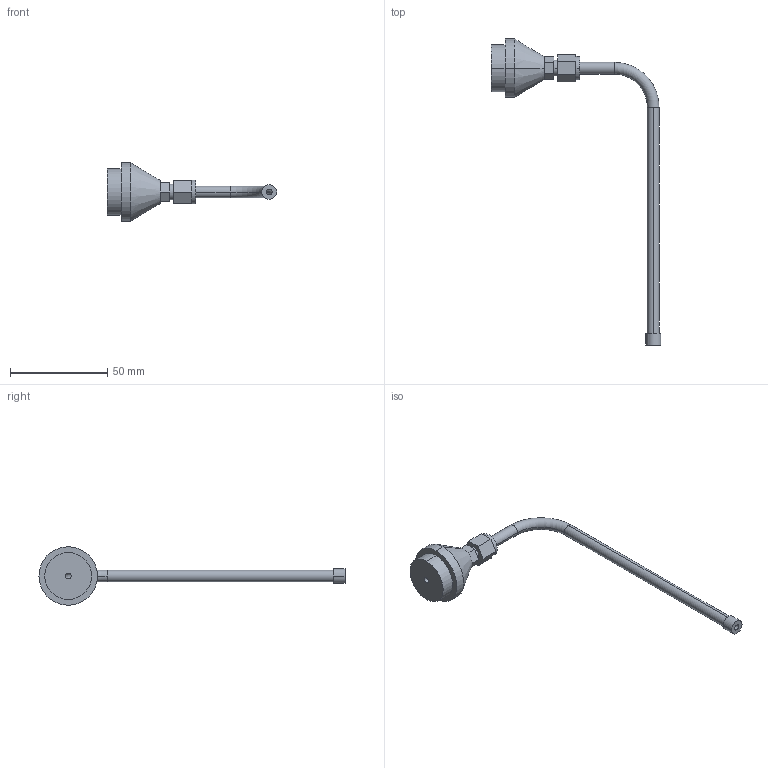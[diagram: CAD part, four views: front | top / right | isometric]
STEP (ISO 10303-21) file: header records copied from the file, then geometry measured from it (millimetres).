
FILE_DESCRIPTION (( 'STEP AP203' ), '1' );
FILE_NAME ('ER-AL10.STEP', '2005-09-08T05:52:11', ( '' ), ( '' ), 'SwSTEP 2.0', 'SolidWorks 2004073', '' );
FILE_SCHEMA (( 'CONFIG_CONTROL_DESIGN' ));
Length unit declared in the file: millimetre
Products named in the file (1): ER-AL10
Bounding box: 86.8 x 157 x 30 mm (x, y, z)
Volume: 17532.9 mm3; surface area: 9162.9 mm2
Topology: 1 solids, 1 shells, 83 faces, 180 edges, 116 vertices
Faces by surface type: cylinder 40, plane 37, torus 4, cone 2
Entity records: 2507 total; most frequent: CARTESIAN_POINT 578, DIRECTION 400, ORIENTED_EDGE 360, EDGE_CURVE 180, AXIS2_PLACEMENT_3D 158, VERTEX_POINT 116, EDGE_LOOP 102, VECTOR 84
